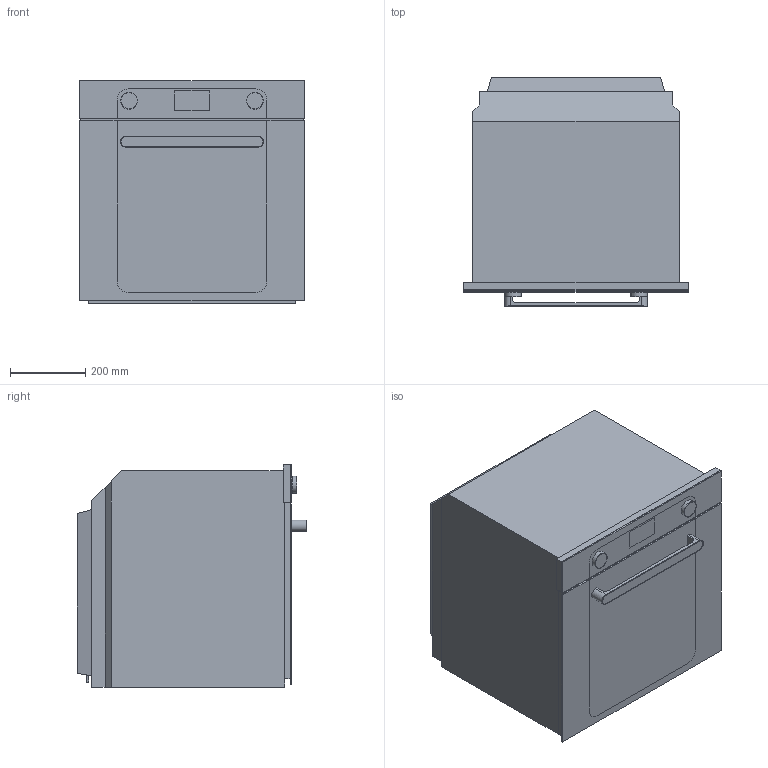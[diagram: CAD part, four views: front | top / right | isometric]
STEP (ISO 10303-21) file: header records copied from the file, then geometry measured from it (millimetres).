
FILE_DESCRIPTION(/* description */ (''),/* implementation_level */ '2;1');
FILE_NAME(/* name */ 'Forno_Musa_60_cm_2_manopole_display.stp',/* time_stamp */ '2026-06-16T11:25:59+02:00',/* author */ (''),/* organization */ (''),/* preprocessor_version */ 'ST-DEVELOPER v20',/* originating_system */ 'SIEMENS PLM Software NX2412.4001',/* authorisation */ '');
FILE_SCHEMA (('AUTOMOTIVE_DESIGN { 1 0 10303 214 3 1 1 1 }'));
Length unit declared in the file: millimetre
Products named in the file (1): Musa60
Bounding box: 597 x 610.65 x 591.84 mm (x, y, z)
Volume: 174170280.2 mm3; surface area: 2698710.2 mm2
Topology: 12 solids, 12 shells, 125 faces, 280 edges, 186 vertices
Faces by surface type: plane 100, cylinder 25
Full cylindrical faces by diameter (mm): 5 x1, 25 x2, 43 x4, 45 x2
Entity records: 3489 total; most frequent: CARTESIAN_POINT 595, DIRECTION 570, ORIENTED_EDGE 540, EDGE_CURVE 270, LINE 218, VECTOR 218, VERTEX_POINT 185, AXIS2_PLACEMENT_3D 176
